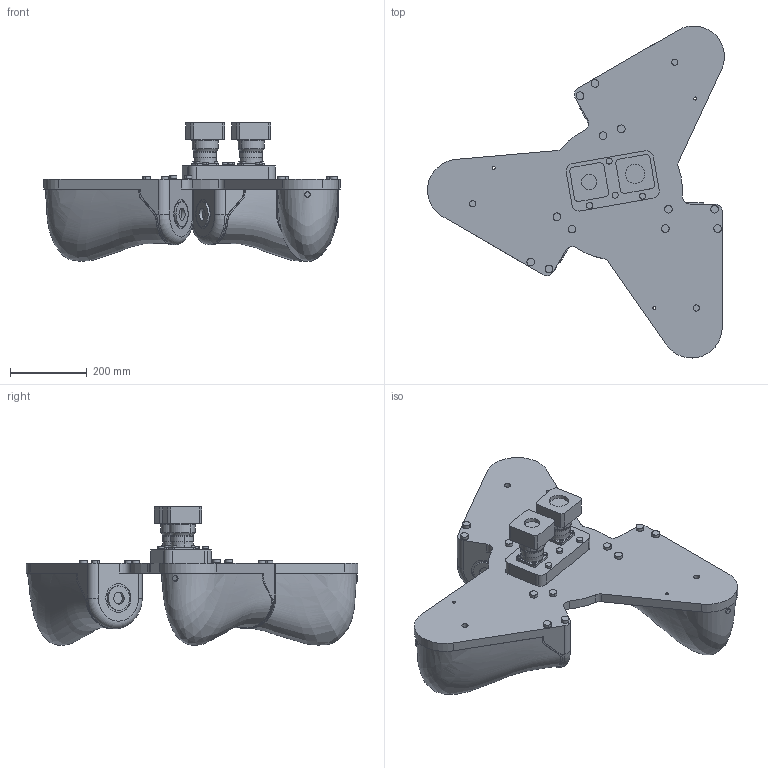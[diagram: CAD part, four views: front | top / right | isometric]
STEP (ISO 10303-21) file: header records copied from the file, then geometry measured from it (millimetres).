
FILE_DESCRIPTION (( 'STEP AP214' ), '1' );
FILE_NAME ('IRB365_1.5-1300_OmniCore_rev00_BASE_CAD.step', '2025-09-09T11:52:01', ( '' ), ( '' ), 'SwSTEP 2.0', 'SolidWorks 2024', '' );
FILE_SCHEMA (( 'AUTOMOTIVE_DESIGN' ));
Length unit declared in the file: millimetre
Products named in the file (1): IRB365_1.5-1300_OmniCore_rev00_BASE_CAD
Bounding box: 771.17 x 862.66 x 359.28 mm (x, y, z)
Volume: 33934091.6 mm3; surface area: 1255795.6 mm2
Topology: 1 solids, 1 shells, 360 faces, 860 edges, 566 vertices
Faces by surface type: cylinder 187, plane 119, torus 35, bspline 15, cone 4
Entity records: 102535 total; most frequent: CARTESIAN_POINT 89928, DIRECTION 1909, ORIENTED_EDGE 1720, EDGE_CURVE 860, AXIS2_PLACEMENT_3D 784, VERTEX_POINT 566, CIRCLE 438, EDGE_LOOP 430
